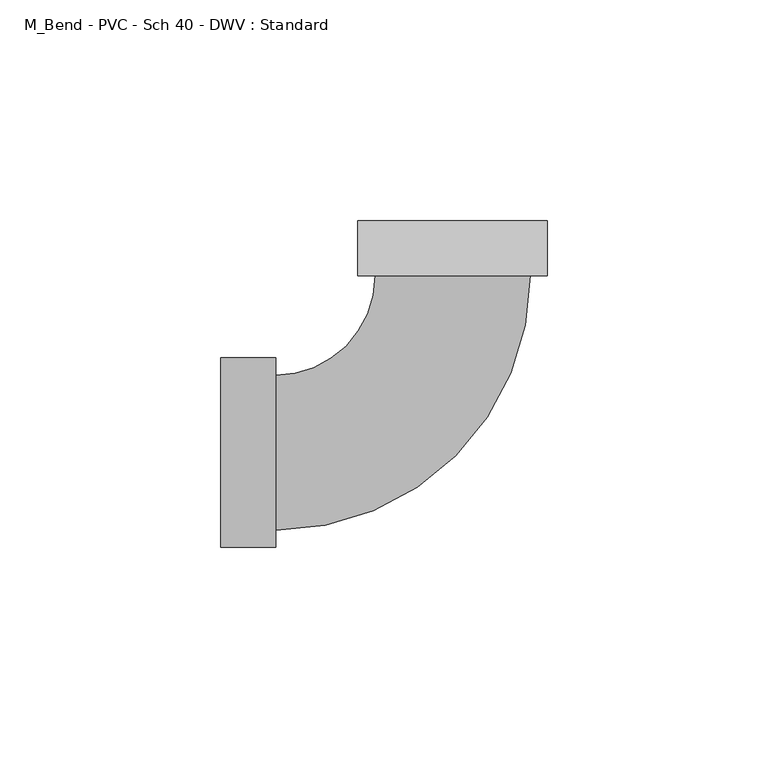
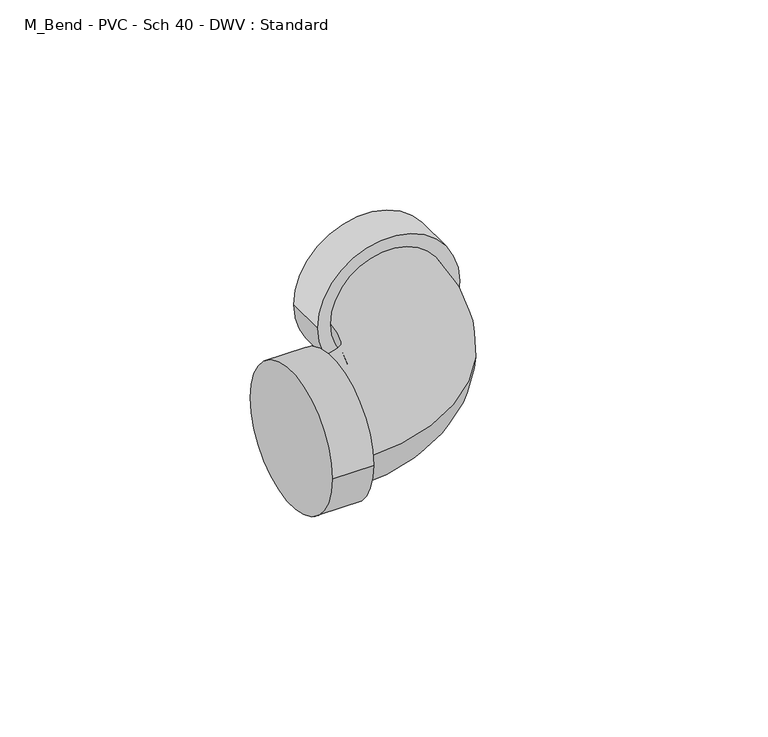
"""IFC4 building model written with IfcOpenShell, lengths in millimetres: pipe fitting geometry, M_Bend - PVC - Sch 40 - DWV : Standard."""

from ifc_helpers import new_model, si_unit, point, frame, origin, place, context, project, spatial, circle_curve, ellipse_curve, trimmed, source, transform, mapped, element, save
from ifc_brep_helpers import plane_surface, cylinder_surface, revolved_surface, advanced_brep


def m_bend_pvc_sch_40_dwv_standard_bf931f02(model_context):
    return source(origin(), model_context, "Body", "AdvancedBrep", [
        advanced_brep(
        [(-52.6140625, -21.4871094, 0.0), (-52.6140625, 21.4871094, 0.0), (-40.1140625, -21.4871094, 0.0), (-40.1140625, 21.4871094, 0.0), (-40.1140625, -17.5640625, 0.0), (-40.1140625, 17.5640625, 0.0), (-17.5651493, 40.1135866, 0.0), (17.5629757, 40.1145383, 0.0), (21.4860226, 40.1146446, 0.0), (-21.4881961, 40.1134804, 0.0), (21.485684, 52.6146446, 0.0), (-21.4885348, 52.6134804, 0.0)],
        [
            (0, 1, circle_curve(frame((-52.6140625, 0.0, 0.0), z_axis=(-1.0, 0.0, 0.0), x_axis=(0.0, 1.0, 0.0)), 21.4871094)),
            (1, 0, circle_curve(frame((-52.6140625, 0.0, 0.0), z_axis=(-1.0, 0.0, 0.0), x_axis=(0.0, 1.0, 0.0)), 21.4871094)),
            (2, 3, circle_curve(frame((-40.1140625, 0.0, 0.0), z_axis=(1.0, 0.0, 0.0), x_axis=(0.0, 1.0, 0.0)), 21.4871094)),
            (3, 2, circle_curve(frame((-40.1140625, 0.0, 0.0), z_axis=(1.0, 0.0, 0.0), x_axis=(0.0, 1.0, 0.0)), 21.4871094)),
            (4, 5, circle_curve(frame((-40.1140625, 0.0, 0.0), z_axis=(-1.0, 0.0, 0.0), x_axis=(0.0, 1.0, 0.0)), 17.5640625)),
            (5, 4, circle_curve(frame((-40.1140625, 0.0, 0.0), z_axis=(-1.0, 0.0, 0.0), x_axis=(0.0, 1.0, 0.0)), 17.5640625)),
            (0, 2),
            (3, 1),
            (6, 5, circle_curve(frame((-40.1140625, 40.1129757, 0.0), z_axis=(0.0, 0.0, -1.0), x_axis=(0.0, -1.0, 0.0)), 22.5489132)),
            (4, 7, circle_curve(frame((-40.1140625, 40.1129757, 0.0), z_axis=(0.0, 0.0, 1.0), x_axis=(0.0, -1.0, 0.0)), 57.6770382)),
            (7, 6, circle_curve(frame((-0.0010868, 40.1140625, 0.0), z_axis=(2.7091882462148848e-05, -0.999999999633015, 0.0), x_axis=(-0.999999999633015, -2.7091882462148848e-05, 0.0)), 17.5640625)),
            (6, 7, circle_curve(frame((-0.0010868, 40.1140625, 0.0), z_axis=(2.7091882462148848e-05, -0.999999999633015, 0.0), x_axis=(-0.999999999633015, -2.7091882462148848e-05, 0.0)), 17.5640625)),
            (8, 9, circle_curve(frame((-0.0010868, 40.1140625, 0.0), z_axis=(2.7091882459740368e-05, -0.999999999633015, 0.0), x_axis=(-0.999999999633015, -2.7091882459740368e-05, 0.0)), 21.4871094)),
            (9, 8, circle_curve(frame((-0.0010868, 40.1140625, 0.0), z_axis=(2.7091882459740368e-05, -0.999999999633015, 0.0), x_axis=(-0.999999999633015, -2.7091882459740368e-05, 0.0)), 21.4871094)),
            (10, 11, circle_curve(frame((-0.0014254, 52.6140625, 0.0), z_axis=(-2.7091882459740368e-05, 0.999999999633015, 0.0), x_axis=(-0.999999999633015, -2.7091882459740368e-05, 0.0)), 21.4871094)),
            (11, 10, circle_curve(frame((-0.0014254, 52.6140625, 0.0), z_axis=(-2.7091882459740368e-05, 0.999999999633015, 0.0), x_axis=(-0.999999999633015, -2.7091882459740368e-05, 0.0)), 21.4871094)),
            (8, 10),
            (11, 9),
        ],
        [
            plane_surface(frame((-52.6140625, 0.0, 0.0), z_axis=(-1.0, 0.0, 0.0), x_axis=(0.0, 0.0, 1.0))),
            plane_surface(frame((-40.1140625, 0.0, 0.0), z_axis=(1.0, 0.0, 0.0), x_axis=(0.0, 0.0, 1.0))),
            cylinder_surface(frame((-52.6140625, 0.0, 0.0), z_axis=(-1.0, 0.0, 0.0), x_axis=(0.0, 1.0, 0.0)), 21.4871094),
            revolved_surface(trimmed(ellipse_curve(frame((-40.1140625, 0.0, 0.0), z_axis=(-1.0, 0.0, 0.0), x_axis=(0.0, 1.0, 0.0)), 17.5640625, 17.5640625), [point((-40.1140625, -17.5640625, 0.0))], [point((-40.1140625, 17.5640625, 0.0))], True, "CARTESIAN"), (-40.1140625, 40.1129757, 0.0), (0.0, 0.0, 1.0)),
            revolved_surface(trimmed(ellipse_curve(frame((-40.1140625, 0.0, 0.0), z_axis=(-1.0, 0.0, 0.0), x_axis=(0.0, 1.0, 0.0)), 17.5640625, 17.5640625), [point((-40.1140625, 17.5640625, 0.0))], [point((-40.1140625, -17.5640625, 0.0))], True, "CARTESIAN"), (-40.1140625, 40.1129757, 0.0), (0.0, 0.0, 1.0)),
            plane_surface(frame((-0.0010868, 40.1140625, 0.0), z_axis=(2.7091882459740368e-05, -0.999999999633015, 0.0), x_axis=(0.0, 0.0, 1.0))),
            plane_surface(frame((-0.0014254, 52.6140625, 0.0), z_axis=(-2.7091882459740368e-05, 0.999999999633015, 0.0), x_axis=(0.0, 0.0, 1.0))),
            cylinder_surface(frame((-0.0010868, 40.1140625, 0.0), z_axis=(2.7091882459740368e-05, -0.999999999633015, 0.0), x_axis=(-0.999999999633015, -2.7091882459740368e-05, 0.0)), 21.4871094),
        ],
        [
            (0, [[1, 2]]),
            (1, [[3, 4], [5, 6]]),
            (2, [[-1, 7, -4, 8]]),
            (2, [[-2, -8, -3, -7]]),
            (3, [[9, -5, 10, 11]]),
            (4, [[-9, 12, -10, -6]]),
            (5, [[13, 14], [-11, -12]]),
            (6, [[15, 16]]),
            (7, [[-13, 17, -16, 18]]),
            (7, [[-14, -18, -15, -17]]),
        ],
    ),
    ])


if __name__ == "__main__":
    model = new_model("IFC4")
    model_context = context("Model", 3, world=origin())
    ifc_project = project(units=[si_unit("LENGTHUNIT", "METRE", prefix="MILLI")], contexts=[model_context])
    site = spatial("IfcSite", under=ifc_project)
    building = spatial("IfcBuilding", under=site)
    placement = place(None, origin())
    m_bend_pvc_sch_40_dwv_standard_shape = m_bend_pvc_sch_40_dwv_standard_bf931f02(model_context)
    element("IfcPipeFitting", 1, ObjectType="M_Bend - PVC - Sch 40 - DWV : Standard", at=placement, inside=building, context=model_context, shape_type="MappedRepresentation", body=[
        mapped(m_bend_pvc_sch_40_dwv_standard_shape, transform((0.0, 0.0, 0.0), x_axis=(1.0, 0.0, 0.0), y_axis=(0.0, 1.0, 0.0), z_axis=(0.0, 0.0, 1.0))),
    ])
    save(model, "model.ifc")
